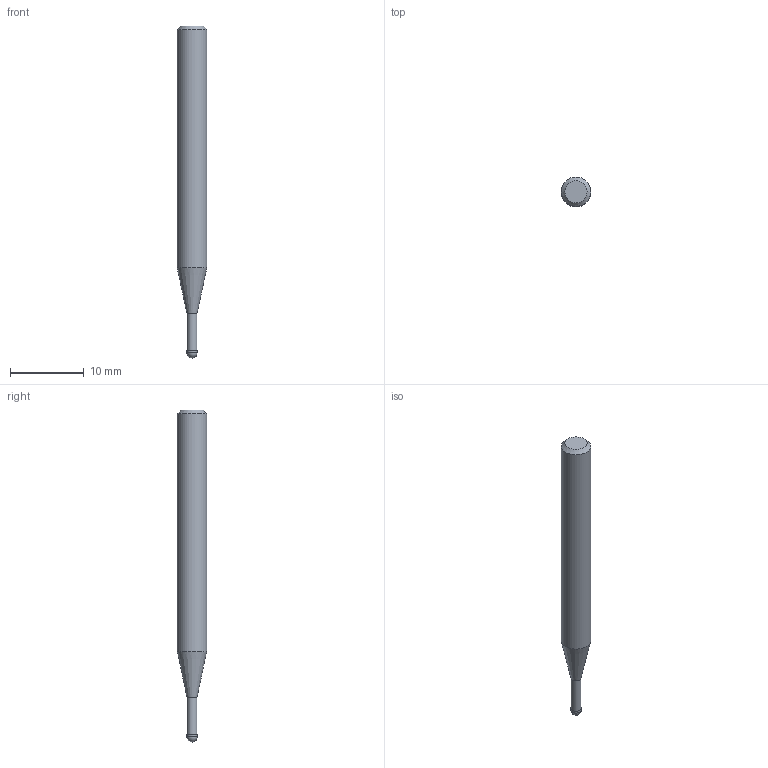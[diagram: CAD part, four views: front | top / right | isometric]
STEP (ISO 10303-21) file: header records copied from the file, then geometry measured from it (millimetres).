
FILE_DESCRIPTION((''),'2;1');
FILE_NAME('C:\Users\nsx150\AppData\Local\Temp\Mastercam 2021\ARV7HD45SN\TEMP.step','2023-06-13T16:36:11',(''),(''),'STEP Write','Mastercam 2021 ... CNC Software, Inc.','');
FILE_SCHEMA(('AUTOMOTIVE_DESIGN'));
Length unit declared in the file: millimetre
Products named in the file (1): None
Bounding box: 4 x 4 x 45 mm (x, y, z)
Volume: 456.5 mm3; surface area: 502.4 mm2
Topology: 2 solids, 2 shells, 9 faces, 14 edges, 8 vertices
Faces by surface type: plane 3, cylinder 3, cone 2, sphere 1
Full cylindrical faces by diameter (mm): 1.35 x1, 1.4 x1, 4 x1
Entity records: 211 total; most frequent: DIRECTION 36, CARTESIAN_POINT 25, AXIS2_PLACEMENT_3D 18, ORIENTED_EDGE 14, EDGE_LOOP 14, STYLED_ITEM 12, ADVANCED_FACE 9, FACE_BOUND 8
